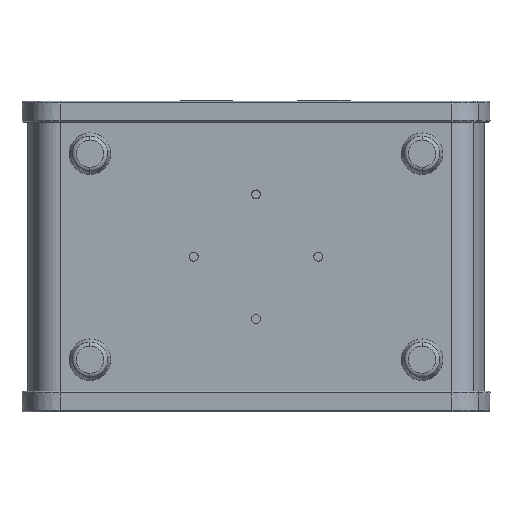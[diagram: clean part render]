
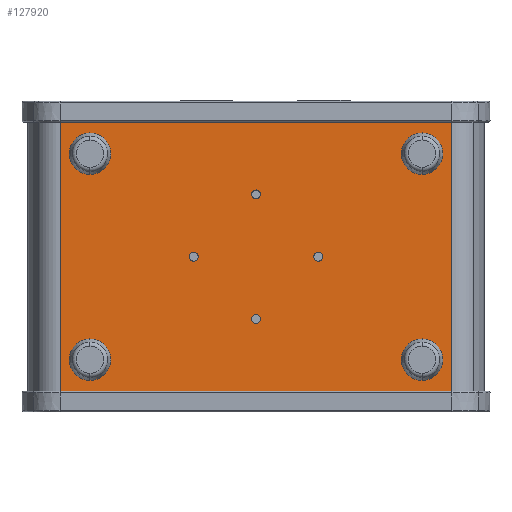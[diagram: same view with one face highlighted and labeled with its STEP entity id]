
A CAD part, front view. The second image highlights one B-rep face of the part: STEP entity #127920.
In plain terms, the highlighted planar face has unit normal (0, -1, 0).
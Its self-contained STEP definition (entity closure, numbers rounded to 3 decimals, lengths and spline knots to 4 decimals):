
#3377=DIRECTION('',(1.,0.,0.));
#3378=VECTOR('',#3377,4.7198);
#3379=CARTESIAN_POINT('',(-2.3599,-0.6435,1.75));
#3380=LINE('',#3379,#3378);
#3574=DIRECTION('',(1.,0.,0.));
#3575=VECTOR('',#3574,4.7198);
#3576=CARTESIAN_POINT('',(-2.3599,-0.6435,-1.75));
#3577=LINE('',#3576,#3575);
#43727=DIRECTION('',(0.,0.,-1.));
#43728=VECTOR('',#43727,3.5);
#43729=CARTESIAN_POINT('',(2.3599,-0.6435,1.75));
#43730=LINE('',#43729,#43728);
#43731=DIRECTION('',(0.,0.,-1.));
#43732=VECTOR('',#43731,3.5);
#43733=CARTESIAN_POINT('',(-2.3599,-0.6435,1.75));
#43734=LINE('',#43733,#43732);
#43735=CARTESIAN_POINT('',(-0.75,-0.6435,0.));
#43736=DIRECTION('',(0.,-1.,0.));
#43737=DIRECTION('',(-1.,0.,0.));
#43738=AXIS2_PLACEMENT_3D('',#43735,#43736,#43737);
#43740=CARTESIAN_POINT('',(-0.75,-0.6435,0.));
#43741=DIRECTION('',(0.,-1.,0.));
#43742=DIRECTION('',(1.,0.,0.));
#43743=AXIS2_PLACEMENT_3D('',#43740,#43741,#43742);
#43745=CARTESIAN_POINT('',(0.75,-0.6435,0.));
#43746=DIRECTION('',(0.,-1.,0.));
#43747=DIRECTION('',(-1.,0.,0.));
#43748=AXIS2_PLACEMENT_3D('',#43745,#43746,#43747);
#43750=CARTESIAN_POINT('',(0.75,-0.6435,0.));
#43751=DIRECTION('',(0.,-1.,0.));
#43752=DIRECTION('',(1.,0.,0.));
#43753=AXIS2_PLACEMENT_3D('',#43750,#43751,#43752);
#43755=CARTESIAN_POINT('',(0.,-0.6435,-0.75));
#43756=DIRECTION('',(0.,-1.,0.));
#43757=DIRECTION('',(-1.,0.,0.));
#43758=AXIS2_PLACEMENT_3D('',#43755,#43756,#43757);
#43760=CARTESIAN_POINT('',(0.,-0.6435,-0.75));
#43761=DIRECTION('',(0.,-1.,0.));
#43762=DIRECTION('',(1.,0.,0.));
#43763=AXIS2_PLACEMENT_3D('',#43760,#43761,#43762);
#43765=CARTESIAN_POINT('',(0.,-0.6435,0.75));
#43766=DIRECTION('',(0.,-1.,0.));
#43767=DIRECTION('',(-1.,0.,0.));
#43768=AXIS2_PLACEMENT_3D('',#43765,#43766,#43767);
#43770=CARTESIAN_POINT('',(0.,-0.6435,0.75));
#43771=DIRECTION('',(0.,-1.,0.));
#43772=DIRECTION('',(1.,0.,0.));
#43773=AXIS2_PLACEMENT_3D('',#43770,#43771,#43772);
#43775=CARTESIAN_POINT('',(2.,-0.6435,1.241));
#43776=DIRECTION('',(0.,1.,0.));
#43777=DIRECTION('',(0.,0.,1.));
#43778=AXIS2_PLACEMENT_3D('',#43775,#43776,#43777);
#43780=CARTESIAN_POINT('',(2.,-0.6435,1.241));
#43781=DIRECTION('',(0.,1.,0.));
#43782=DIRECTION('',(0.,0.,-1.));
#43783=AXIS2_PLACEMENT_3D('',#43780,#43781,#43782);
#43785=CARTESIAN_POINT('',(-2.,-0.6435,1.24));
#43786=DIRECTION('',(0.,1.,0.));
#43787=DIRECTION('',(0.,0.,1.));
#43788=AXIS2_PLACEMENT_3D('',#43785,#43786,#43787);
#43790=CARTESIAN_POINT('',(-2.,-0.6435,1.24));
#43791=DIRECTION('',(0.,1.,0.));
#43792=DIRECTION('',(0.,0.,-1.));
#43793=AXIS2_PLACEMENT_3D('',#43790,#43791,#43792);
#43795=CARTESIAN_POINT('',(2.,-0.6435,-1.241));
#43796=DIRECTION('',(0.,1.,0.));
#43797=DIRECTION('',(0.,0.,1.));
#43798=AXIS2_PLACEMENT_3D('',#43795,#43796,#43797);
#43800=CARTESIAN_POINT('',(2.,-0.6435,-1.241));
#43801=DIRECTION('',(0.,1.,0.));
#43802=DIRECTION('',(0.,0.,-1.));
#43803=AXIS2_PLACEMENT_3D('',#43800,#43801,#43802);
#43805=CARTESIAN_POINT('',(-2.,-0.6435,-1.241));
#43806=DIRECTION('',(0.,1.,0.));
#43807=DIRECTION('',(0.,0.,1.));
#43808=AXIS2_PLACEMENT_3D('',#43805,#43806,#43807);
#43810=CARTESIAN_POINT('',(-2.,-0.6435,-1.241));
#43811=DIRECTION('',(0.,1.,0.));
#43812=DIRECTION('',(0.,0.,-1.));
#43813=AXIS2_PLACEMENT_3D('',#43810,#43811,#43812);
#55209=CARTESIAN_POINT('',(2.3599,-0.6435,-1.75));
#55211=VERTEX_POINT('',#55209);
#55212=CARTESIAN_POINT('',(2.3599,-0.6435,1.75));
#55213=VERTEX_POINT('',#55212);
#55224=CARTESIAN_POINT('',(-2.3599,-0.6435,-1.75));
#55226=VERTEX_POINT('',#55224);
#55230=CARTESIAN_POINT('',(-2.3599,-0.6435,1.75));
#55231=VERTEX_POINT('',#55230);
#55256=CARTESIAN_POINT('',(-0.8033,-0.6435,0.));
#55257=CARTESIAN_POINT('',(-0.6968,-0.6435,0.));
#55258=VERTEX_POINT('',#55256);
#55259=VERTEX_POINT('',#55257);
#55264=CARTESIAN_POINT('',(0.6968,-0.6435,0.));
#55265=CARTESIAN_POINT('',(0.8033,-0.6435,0.));
#55266=VERTEX_POINT('',#55264);
#55267=VERTEX_POINT('',#55265);
#55272=CARTESIAN_POINT('',(-0.0533,-0.6435,-0.75));
#55273=CARTESIAN_POINT('',(0.0533,-0.6435,-0.75));
#55274=VERTEX_POINT('',#55272);
#55275=VERTEX_POINT('',#55273);
#55280=CARTESIAN_POINT('',(-0.0533,-0.6435,0.75));
#55281=CARTESIAN_POINT('',(0.0533,-0.6435,0.75));
#55282=VERTEX_POINT('',#55280);
#55283=VERTEX_POINT('',#55281);
#68678=CARTESIAN_POINT('',(2.,-0.6435,1.491));
#68679=CARTESIAN_POINT('',(2.,-0.6435,0.991));
#68680=VERTEX_POINT('',#68678);
#68681=VERTEX_POINT('',#68679);
#68690=CARTESIAN_POINT('',(-2.,-0.6435,1.49));
#68691=CARTESIAN_POINT('',(-2.,-0.6435,0.99));
#68692=VERTEX_POINT('',#68690);
#68693=VERTEX_POINT('',#68691);
#68702=CARTESIAN_POINT('',(2.,-0.6435,-0.991));
#68703=CARTESIAN_POINT('',(2.,-0.6435,-1.491));
#68704=VERTEX_POINT('',#68702);
#68705=VERTEX_POINT('',#68703);
#68714=CARTESIAN_POINT('',(-2.,-0.6435,-0.991));
#68715=CARTESIAN_POINT('',(-2.,-0.6435,-1.491));
#68716=VERTEX_POINT('',#68714);
#68717=VERTEX_POINT('',#68715);
#127860=CARTESIAN_POINT('',(-2.5154,-0.6435,-1.75));
#127861=DIRECTION('',(0.,-1.,0.));
#127862=DIRECTION('',(1.,0.,0.));
#127863=AXIS2_PLACEMENT_3D('',#127860,#127861,#127862);
#127864=PLANE('',#127863);
#127866=ORIENTED_EDGE('',*,*,#127865,.T.);
#127867=ORIENTED_EDGE('',*,*,#71962,.F.);
#127869=ORIENTED_EDGE('',*,*,#127868,.F.);
#127870=ORIENTED_EDGE('',*,*,#71733,.T.);
#127871=EDGE_LOOP('',(#127866,#127867,#127869,#127870));
#127872=FACE_OUTER_BOUND('',#127871,.F.);
#127873=ORIENTED_EDGE('',*,*,#127850,.T.);
#127875=ORIENTED_EDGE('',*,*,#127874,.T.);
#127876=EDGE_LOOP('',(#127873,#127875));
#127877=FACE_BOUND('',#127876,.F.);
#127879=ORIENTED_EDGE('',*,*,#127878,.T.);
#127881=ORIENTED_EDGE('',*,*,#127880,.T.);
#127882=EDGE_LOOP('',(#127879,#127881));
#127883=FACE_BOUND('',#127882,.F.);
#127885=ORIENTED_EDGE('',*,*,#127884,.T.);
#127887=ORIENTED_EDGE('',*,*,#127886,.T.);
#127888=EDGE_LOOP('',(#127885,#127887));
#127889=FACE_BOUND('',#127888,.F.);
#127891=ORIENTED_EDGE('',*,*,#127890,.T.);
#127893=ORIENTED_EDGE('',*,*,#127892,.T.);
#127894=EDGE_LOOP('',(#127891,#127893));
#127895=FACE_BOUND('',#127894,.F.);
#127897=ORIENTED_EDGE('',*,*,#127896,.F.);
#127899=ORIENTED_EDGE('',*,*,#127898,.F.);
#127900=EDGE_LOOP('',(#127897,#127899));
#127901=FACE_BOUND('',#127900,.F.);
#127903=ORIENTED_EDGE('',*,*,#127902,.F.);
#127905=ORIENTED_EDGE('',*,*,#127904,.F.);
#127906=EDGE_LOOP('',(#127903,#127905));
#127907=FACE_BOUND('',#127906,.F.);
#127909=ORIENTED_EDGE('',*,*,#127908,.F.);
#127911=ORIENTED_EDGE('',*,*,#127910,.F.);
#127912=EDGE_LOOP('',(#127909,#127911));
#127913=FACE_BOUND('',#127912,.F.);
#127915=ORIENTED_EDGE('',*,*,#127914,.F.);
#127917=ORIENTED_EDGE('',*,*,#127916,.F.);
#127918=EDGE_LOOP('',(#127915,#127917));
#127919=FACE_BOUND('',#127918,.F.);
#127920=ADVANCED_FACE('',(#127872,#127877,#127883,#127889,#127895,#127901,
#127907,#127913,#127919),#127864,.T.);
#43739=CIRCLE('',#43738,0.0533);
#43744=CIRCLE('',#43743,0.0533);
#43749=CIRCLE('',#43748,0.0533);
#43754=CIRCLE('',#43753,0.0533);
#43759=CIRCLE('',#43758,0.0533);
#43764=CIRCLE('',#43763,0.0533);
#43769=CIRCLE('',#43768,0.0533);
#43774=CIRCLE('',#43773,0.0533);
#43779=CIRCLE('',#43778,0.25);
#43784=CIRCLE('',#43783,0.25);
#43789=CIRCLE('',#43788,0.25);
#43794=CIRCLE('',#43793,0.25);
#43799=CIRCLE('',#43798,0.25);
#43804=CIRCLE('',#43803,0.25);
#43809=CIRCLE('',#43808,0.25);
#43814=CIRCLE('',#43813,0.25);
#71733=EDGE_CURVE('',#55231,#55213,#3380,.T.);
#71962=EDGE_CURVE('',#55226,#55211,#3577,.T.);
#127850=EDGE_CURVE('',#55258,#55259,#43739,.T.);
#127865=EDGE_CURVE('',#55213,#55211,#43730,.T.);
#127868=EDGE_CURVE('',#55231,#55226,#43734,.T.);
#127874=EDGE_CURVE('',#55259,#55258,#43744,.T.);
#127878=EDGE_CURVE('',#55266,#55267,#43749,.T.);
#127880=EDGE_CURVE('',#55267,#55266,#43754,.T.);
#127884=EDGE_CURVE('',#55274,#55275,#43759,.T.);
#127886=EDGE_CURVE('',#55275,#55274,#43764,.T.);
#127890=EDGE_CURVE('',#55282,#55283,#43769,.T.);
#127892=EDGE_CURVE('',#55283,#55282,#43774,.T.);
#127896=EDGE_CURVE('',#68680,#68681,#43779,.T.);
#127898=EDGE_CURVE('',#68681,#68680,#43784,.T.);
#127902=EDGE_CURVE('',#68692,#68693,#43789,.T.);
#127904=EDGE_CURVE('',#68693,#68692,#43794,.T.);
#127908=EDGE_CURVE('',#68704,#68705,#43799,.T.);
#127910=EDGE_CURVE('',#68705,#68704,#43804,.T.);
#127914=EDGE_CURVE('',#68716,#68717,#43809,.T.);
#127916=EDGE_CURVE('',#68717,#68716,#43814,.T.);
